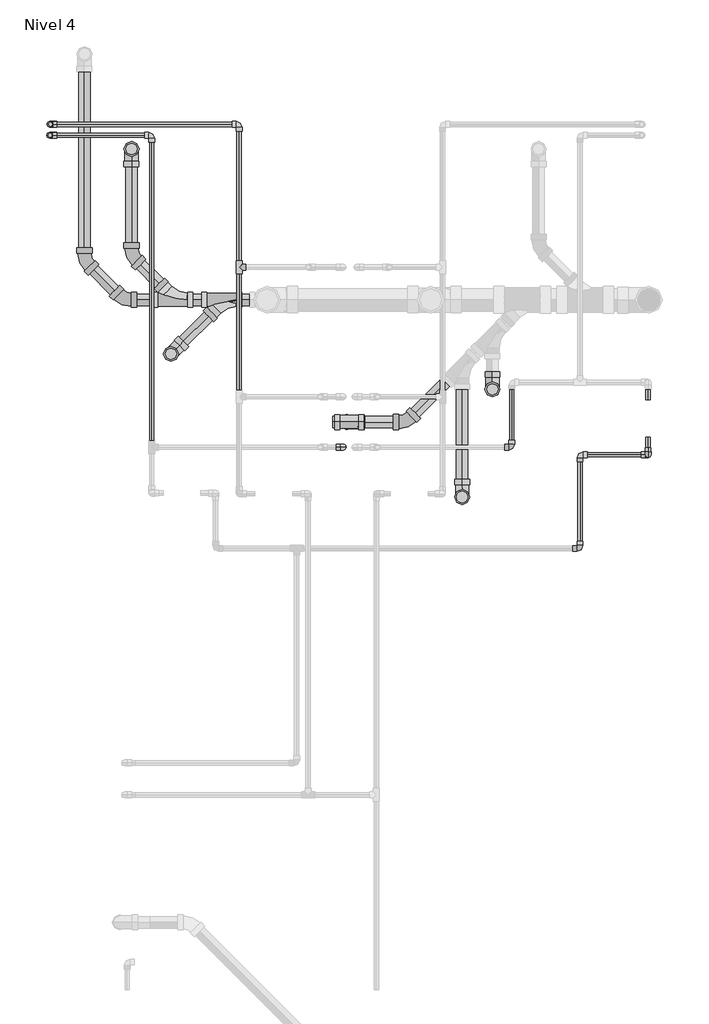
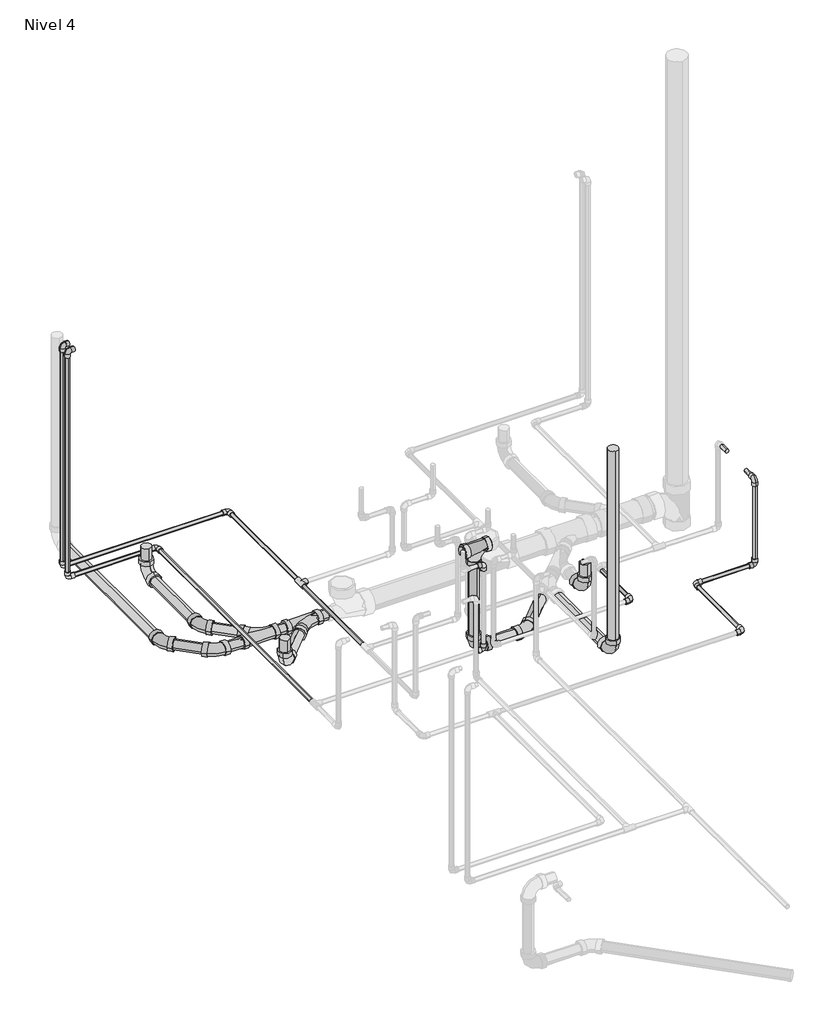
# One storey, part 8 of 9: 31 pipe segments, 26 pipe fittings.
"""IFC4 building model written with IfcOpenShell, lengths in millimetres."""

from ifc_helpers import new_model, si_unit, point, frame, frame_2d, origin, place, context, project, spatial, circle_curve, trimmed, segment, composite_curve, outline, extrude, transform, mapped, element, save
from components import pipe_fitting_ab418b84, pipe_fitting_0163322b, pipe_fitting_6ef1482d, m_codo_pvc_serie_40_9ad74631, m_codo_pvc_serie_40_ba05d404, m_codo_pvc_serie_40_dwv1_5c0ec739, m_codo_pvc_serie_40_dwv1_6f1a2495

model = new_model("IFC4")

# Units and contexts
model_context = context("Model", 3, world=origin())
ifc_project = project(units=[si_unit("LENGTHUNIT", "METRE", prefix="MILLI")], contexts=[model_context])

# Site, building, storey
site = spatial("IfcSite", under=ifc_project)
building = spatial("IfcBuilding", under=site)
storey = spatial("IfcBuildingStorey", under=building, Name="Nivel 4", Elevation=8100.0)

# Pipe fittings
placement = place(None, origin())
pipe_fitting_shape = pipe_fitting_ab418b84(model_context)
element("IfcPipeFitting", 1, ObjectType="M_Te - PVC - Serie 40 : Estándar", at=placement, inside=storey, context=model_context, shape_type="MappedRepresentation", body=[
    mapped(pipe_fitting_shape, transform((3940.052369, 16556.8784649, 8050.0), x_axis=(0.0, 1.0, 0.0), y_axis=(-1.0, 0.0, 0.0), z_axis=(0.0, 0.0, 1.0))),
])
pipe_fitting_2_shape = pipe_fitting_0163322b(model_context)
element("IfcPipeFitting", 2, ObjectType="M_Sanitario con te de reducción - PVC - Serie 40 - DWV : Estándar", at=placement, inside=storey, context=model_context, shape_type="MappedRepresentation", body=[
    mapped(pipe_fitting_2_shape, transform((3642.8791077, 16403.3960274, 7950.0), x_axis=(-1.0, 0.0, 0.0), y_axis=(0.0, -1.0, 0.0), z_axis=(0.0, 0.0, 1.0))),
])
element("IfcPipeFitting", 3, ObjectType="M_Sanitario con te de reducción - PVC - Serie 40 - DWV : Estándar", at=placement, inside=storey, context=model_context, shape_type="MappedRepresentation", body=[
    mapped(pipe_fitting_2_shape, transform((3873.1661658, 16403.3960274, 7950.0), x_axis=(-1.0, 0.0, 0.0), y_axis=(0.0, 1.0, 0.0), z_axis=(0.0, 0.0, -1.0))),
])
pipe_fitting_3_shape = pipe_fitting_6ef1482d(model_context)
element("IfcPipeFitting", 4, ObjectType="M_Sanitario con te de reducción - PVC - Serie 40 - DWV : Estándar", at=placement, inside=storey, context=model_context, shape_type="MappedRepresentation", body=[
    mapped(pipe_fitting_3_shape, transform((4444.9531324, 15830.0, 8510.6716548), x_axis=(-1.0, 0.0, 0.0), y_axis=(0.0, 0.0, 1.0), z_axis=(0.0, 1.0, 0.0))),
])
m_codo_pvc_serie_40_shape = m_codo_pvc_serie_40_9ad74631(model_context)
element("IfcPipeFitting", 5, ObjectType="M_Codo - PVC - Serie 40 : Estándar", at=placement, inside=storey, context=model_context, shape_type="MappedRepresentation", body=[
    mapped(m_codo_pvc_serie_40_shape, transform((3940.052369, 17227.3386211, 8050.0), x_axis=(0.0, 1.0, 0.0), y_axis=(-1.0, 0.0, 0.0), z_axis=(0.0, 0.0, 1.0))),
])
element("IfcPipeFitting", 6, ObjectType="M_Codo - PVC - Serie 40 : Estándar", at=placement, inside=storey, context=model_context, shape_type="MappedRepresentation", body=[
    mapped(m_codo_pvc_serie_40_shape, transform((3051.302369, 17227.3386211, 8050.0), x_axis=(-1.0, 0.0, 0.0), y_axis=(0.0, 0.0, 1.0), z_axis=(0.0, 1.0, 0.0))),
])
element("IfcPipeFitting", 7, ObjectType="M_Codo - PVC - Serie 40 : Estándar", at=placement, inside=storey, context=model_context, shape_type="MappedRepresentation", body=[
    mapped(m_codo_pvc_serie_40_shape, transform((3051.302369, 17227.3386211, 9300.0), x_axis=(0.0, 0.0, 1.0), y_axis=(1.0, 0.0, 0.0), z_axis=(0.0, 1.0, 0.0))),
])
element("IfcPipeFitting", 8, ObjectType="M_Codo - PVC - Serie 40 : Estándar", at=placement, inside=storey, context=model_context, shape_type="MappedRepresentation", body=[
    mapped(m_codo_pvc_serie_40_shape, transform((3529.5674476, 17176.3878958, 8020.0), x_axis=(0.0, 1.0, 0.0), y_axis=(-1.0, 0.0, 0.0), z_axis=(0.0, 0.0, 1.0))),
])
element("IfcPipeFitting", 9, ObjectType="M_Codo - PVC - Serie 40 : Estándar", at=placement, inside=storey, context=model_context, shape_type="MappedRepresentation", body=[
    mapped(m_codo_pvc_serie_40_shape, transform((3049.5674476, 17176.3878958, 8020.0), x_axis=(-1.0, 0.0, 0.0), y_axis=(0.0, 0.0, 1.0), z_axis=(0.0, 1.0, 0.0))),
])
element("IfcPipeFitting", 10, ObjectType="M_Codo - PVC - Serie 40 : Estándar", at=placement, inside=storey, context=model_context, shape_type="MappedRepresentation", body=[
    mapped(m_codo_pvc_serie_40_shape, transform((3049.5674476, 17176.3878958, 9300.0), x_axis=(0.0, 0.0, 1.0), y_axis=(1.0, 0.0, 0.0), z_axis=(0.0, 1.0, 0.0))),
])
element("IfcPipeFitting", 11, ObjectType="M_Codo - PVC - Serie 40 : Estándar", at=placement, inside=storey, context=model_context, shape_type="MappedRepresentation", body=[
    mapped(m_codo_pvc_serie_40_shape, transform((5540.0276039, 15236.3878958, 8020.0), x_axis=(1.0, 0.0, 0.0), y_axis=(0.0, 1.0, 0.0), z_axis=(0.0, 0.0, 1.0))),
])
element("IfcPipeFitting", 12, ObjectType="M_Codo - PVC - Serie 40 : Estándar", at=placement, inside=storey, context=model_context, shape_type="MappedRepresentation", body=[
    mapped(m_codo_pvc_serie_40_shape, transform((5540.0276039, 15676.3878958, 8020.0), x_axis=(-1.0, 0.0, 0.0), y_axis=(0.0, -1.0, 0.0), z_axis=(0.0, 0.0, 1.0))),
])
element("IfcPipeFitting", 13, ObjectType="M_Codo - PVC - Serie 40 : Estándar", at=placement, inside=storey, context=model_context, shape_type="MappedRepresentation", body=[
    mapped(m_codo_pvc_serie_40_shape, transform((5860.0276039, 15676.3878958, 8020.0), x_axis=(1.0, 0.0, 0.0), y_axis=(0.0, 0.0, 1.0), z_axis=(0.0, -1.0, 0.0))),
])
element("IfcPipeFitting", 14, ObjectType="M_Codo - PVC - Serie 40 : Estándar", at=placement, inside=storey, context=model_context, shape_type="MappedRepresentation", body=[
    mapped(m_codo_pvc_serie_40_shape, transform((5860.0276039, 15676.3878958, 8500.0), x_axis=(0.0, 0.0, 1.0), y_axis=(0.0, 1.0, 0.0), z_axis=(-1.0, 0.0, 0.0))),
])
element("IfcPipeFitting", 15, ObjectType="M_Codo - PVC - Serie 40 : Estándar", at=placement, inside=storey, context=model_context, shape_type="MappedRepresentation", body=[
    mapped(m_codo_pvc_serie_40_shape, transform((5219.5674476, 15711.6215833, 8020.0), x_axis=(1.0, 0.0, 0.0), y_axis=(0.0, 1.0, 0.0), z_axis=(0.0, 0.0, 1.0))),
])
element("IfcPipeFitting", 16, ObjectType="M_Codo - PVC - Serie 40 : Estándar", at=placement, inside=storey, context=model_context, shape_type="MappedRepresentation", body=[
    mapped(m_codo_pvc_serie_40_shape, transform((4428.802369, 15711.6215833, 8020.0), x_axis=(0.0, 0.0, -1.0), y_axis=(-1.0, 0.0, 0.0), z_axis=(0.0, 1.0, 0.0))),
])
m_codo_pvc_serie_40_2_shape = m_codo_pvc_serie_40_ba05d404(model_context)
element("IfcPipeFitting", 17, ObjectType="M_Codo - PVC - Serie 40 : Estándar", at=placement, inside=storey, context=model_context, shape_type="MappedRepresentation", body=[
    mapped(m_codo_pvc_serie_40_2_shape, transform((4428.802369, 15711.6215833, 8500.0), x_axis=(1.0, 0.0, 0.0), y_axis=(0.0, 0.0, 1.0), z_axis=(0.0, -1.0, 0.0))),
])
m_codo_pvc_serie_40_dwv1_shape = m_codo_pvc_serie_40_dwv1_5c0ec739(model_context)
element("IfcPipeFitting", 18, ObjectType="M_Codo - PVC - Serie 40 - DWV1 : Estándar 2", at=placement, inside=storey, context=model_context, shape_type="MappedRepresentation", body=[
    mapped(m_codo_pvc_serie_40_dwv1_shape, transform((3434.5151234, 17111.7600116, 7950.0), x_axis=(0.0, 1.0, 0.0), y_axis=(0.0, 0.0, 1.0), z_axis=(1.0, 0.0, 0.0))),
])
element("IfcPipeFitting", 19, ObjectType="M_Codo - PVC - Serie 40 - DWV1 : Estándar 2", at=placement, inside=storey, context=model_context, shape_type="MappedRepresentation", body=[
    mapped(m_codo_pvc_serie_40_dwv1_shape, transform((4444.9531324, 15830.0, 7950.0), x_axis=(0.0, 0.0, -1.0), y_axis=(1.0, 0.0, 0.0), z_axis=(0.0, -1.0, 0.0))),
])
element("IfcPipeFitting", 20, ObjectType="M_Codo - PVC - Serie 40 - DWV1 : Estándar 2", at=placement, inside=storey, context=model_context, shape_type="MappedRepresentation", body=[
    mapped(m_codo_pvc_serie_40_dwv1_shape, transform((5128.991198, 15983.6158639, 7950.0), x_axis=(0.0, -1.0, 0.0), y_axis=(0.0, 0.0, 1.0), z_axis=(-1.0, 0.0, 0.0))),
])
element("IfcPipeFitting", 21, ObjectType="M_Codo - PVC - Serie 40 - DWV1 : Estándar 2", at=placement, inside=storey, context=model_context, shape_type="MappedRepresentation", body=[
    mapped(m_codo_pvc_serie_40_dwv1_shape, transform((3619.7701384, 16150.0, 7950.0), x_axis=(-0.7071067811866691, -0.7071067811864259, 0.0), y_axis=(0.0, 0.0, 1.0), z_axis=(-0.7071067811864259, 0.7071067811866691, 0.0))),
])
element("IfcPipeFitting", 22, ObjectType="M_Codo - PVC - Serie 40 - DWV1 : Estándar 2", at=placement, inside=storey, context=model_context, shape_type="MappedRepresentation", body=[
    mapped(m_codo_pvc_serie_40_dwv1_shape, transform((4986.7349767, 15478.0354988, 7950.0), x_axis=(0.0, 0.0, -1.0), y_axis=(0.0, 1.0, 0.0), z_axis=(1.0, 0.0, 0.0))),
])
m_codo_pvc_serie_40_dwv1_2_shape = m_codo_pvc_serie_40_dwv1_6f1a2495(model_context)
element("IfcPipeFitting", 23, ObjectType="M_Codo - PVC - Serie 40 - DWV1 : Estándar 2", at=placement, inside=storey, context=model_context, shape_type="MappedRepresentation", body=[
    mapped(m_codo_pvc_serie_40_dwv1_2_shape, transform((3434.5151234, 16611.7600116, 7950.0), x_axis=(0.0, -1.0, 0.0), y_axis=(1.0, 0.0, 0.0), z_axis=(0.0, 0.0, 1.0))),
])
element("IfcPipeFitting", 24, ObjectType="M_Codo - PVC - Serie 40 - DWV1 : Estándar 2", at=placement, inside=storey, context=model_context, shape_type="MappedRepresentation", body=[
    mapped(m_codo_pvc_serie_40_dwv1_2_shape, transform((4723.699478, 15830.0, 7950.0), x_axis=(1.0, 0.0, 0.0), y_axis=(0.0, 1.0, 0.0), z_axis=(0.0, 0.0, 1.0))),
])
element("IfcPipeFitting", 25, ObjectType="M_Codo - PVC - Serie 40 - DWV1 : Estándar 2", at=placement, inside=storey, context=model_context, shape_type="MappedRepresentation", body=[
    mapped(m_codo_pvc_serie_40_dwv1_2_shape, transform((3213.7125219, 16587.2430701, 7950.0), x_axis=(0.0, -1.0, 0.0), y_axis=(1.0, 0.0, 0.0), z_axis=(0.0, 0.0, 1.0))),
])
element("IfcPipeFitting", 26, ObjectType="M_Codo - PVC - Serie 40 - DWV1 : Estándar 2", at=placement, inside=storey, context=model_context, shape_type="MappedRepresentation", body=[
    mapped(m_codo_pvc_serie_40_dwv1_2_shape, transform((3397.5595646, 16403.3960274, 7950.0), x_axis=(0.7071067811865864, -0.7071067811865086, 0.0), y_axis=(0.7071067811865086, 0.7071067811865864, 0.0), z_axis=(0.0, 0.0, 1.0))),
])

# Pipe segments
element("IfcPipeSegment", 27, ObjectType="Tuberia PVC Agua Fria", at=placement, inside=storey, context=model_context, shape_type="SweptSolid", body=[
    extrude(outline(composite_curve([segment(trimmed(circle_curve(frame_2d((8050.0, 3940.052369)), 10.31875), [point((8050.0, 3929.733619))], [point((8039.68125, 3940.052369))], False, "CARTESIAN"), True, "CONTINUOUS"), segment(trimmed(circle_curve(frame_2d((8050.0, 3940.052369)), 10.31875), [point((8039.68125, 3940.052369))], [point((8050.0, 3950.371119))], False, "CARTESIAN"), True, "CONTINUOUS"), segment(trimmed(circle_curve(frame_2d((8050.0, 3940.052369)), 10.31875), [point((8050.0, 3950.371119))], [point((8060.31875, 3940.052369))], False, "CARTESIAN"), True, "CONTINUOUS"), segment(trimmed(circle_curve(frame_2d((8050.0, 3940.052369)), 10.31875), [point((8060.31875, 3940.052369))], [point((8050.0, 3929.733619))], False, "CARTESIAN"), True, "CONTINUOUS")], self_intersect=False)), frame((0.0, 15978.8385729, 0.0), z_axis=(0.0, 1.0, 0.0), x_axis=(0.0, 0.0, 1.0)), (0.0, 0.0, 1.0), 547.5797357),
])
element("IfcPipeSegment", 28, ObjectType="Tuberia PVC Agua Fria", at=placement, inside=storey, context=model_context, shape_type="SweptSolid", body=[
    extrude(outline(composite_curve([segment(trimmed(circle_curve(frame_2d((8050.0, 3940.052369)), 10.31875), [point((8050.0, 3950.371119))], [point((8060.31875, 3940.052369))], False, "CARTESIAN"), True, "CONTINUOUS"), segment(trimmed(circle_curve(frame_2d((8050.0, 3940.052369)), 10.31875), [point((8060.31875, 3940.052369))], [point((8050.0, 3929.733619))], False, "CARTESIAN"), True, "CONTINUOUS"), segment(trimmed(circle_curve(frame_2d((8050.0, 3940.052369)), 10.31875), [point((8050.0, 3929.733619))], [point((8039.68125, 3940.052369))], False, "CARTESIAN"), True, "CONTINUOUS"), segment(trimmed(circle_curve(frame_2d((8050.0, 3940.052369)), 10.31875), [point((8039.68125, 3940.052369))], [point((8050.0, 3950.371119))], False, "CARTESIAN"), True, "CONTINUOUS")], self_intersect=False)), frame((0.0, 16587.3386211, 0.0), z_axis=(0.0, 1.0, 0.0), x_axis=(0.0, 0.0, 1.0)), (0.0, 0.0, 1.0), 606.599),
])
element("IfcPipeSegment", 29, ObjectType="Tuberia PVC Agua Fria", at=placement, inside=storey, context=model_context, shape_type="SweptSolid", body=[
    extrude(outline(composite_curve([segment(trimmed(circle_curve(frame_2d((17227.3386211, 8050.0)), 10.31875), [point((17237.6573711, 8050.0))], [point((17227.3386211, 8039.68125))], False, "CARTESIAN"), True, "CONTINUOUS"), segment(trimmed(circle_curve(frame_2d((17227.3386211, 8050.0)), 10.31875), [point((17227.3386211, 8039.68125))], [point((17217.0198711, 8050.0))], False, "CARTESIAN"), True, "CONTINUOUS"), segment(trimmed(circle_curve(frame_2d((17227.3386211, 8050.0)), 10.31875), [point((17217.0198711, 8050.0))], [point((17227.3386211, 8060.31875))], False, "CARTESIAN"), True, "CONTINUOUS"), segment(trimmed(circle_curve(frame_2d((17227.3386211, 8050.0)), 10.31875), [point((17227.3386211, 8060.31875))], [point((17237.6573711, 8050.0))], False, "CARTESIAN"), True, "CONTINUOUS")], self_intersect=False)), frame((3084.703369, 0.0, 0.0), z_axis=(1.0, 0.0, 0.0), x_axis=(0.0, 1.0, 0.0)), (0.0, 0.0, 1.0), 821.948),
])
element("IfcPipeSegment", 30, ObjectType="Tuberia PVC Agua Fria", at=placement, inside=storey, context=model_context, shape_type="SweptSolid", body=[
    extrude(outline(composite_curve([segment(trimmed(circle_curve(frame_2d((3051.302369, 17227.3386211)), 10.31875), [point((3040.983619, 17227.3386211))], [point((3051.302369, 17237.6573711))], False, "CARTESIAN"), True, "CONTINUOUS"), segment(trimmed(circle_curve(frame_2d((3051.302369, 17227.3386211)), 10.31875), [point((3051.302369, 17237.6573711))], [point((3061.621119, 17227.3386211))], False, "CARTESIAN"), True, "CONTINUOUS"), segment(trimmed(circle_curve(frame_2d((3051.302369, 17227.3386211)), 10.31875), [point((3061.621119, 17227.3386211))], [point((3051.302369, 17217.0198711))], False, "CARTESIAN"), True, "CONTINUOUS"), segment(trimmed(circle_curve(frame_2d((3051.302369, 17227.3386211)), 10.31875), [point((3051.302369, 17217.0198711))], [point((3040.983619, 17227.3386211))], False, "CARTESIAN"), True, "CONTINUOUS")], self_intersect=False)), frame((0.0, 0.0, 8083.401), z_axis=(0.0, 0.0, 1.0), x_axis=(1.0, 0.0, 0.0)), (0.0, 0.0, 1.0), 1183.198),
])
element("IfcPipeSegment", 31, ObjectType="Tuberia PVC VENTILACION", at=placement, inside=storey, context=model_context, shape_type="SweptSolid", body=[
    extrude(outline(composite_curve([segment(trimmed(circle_curve(frame_2d((16403.3960274, 7950.0)), 26.9875), [point((16376.4085274, 7950.0))], [point((16403.3960274, 7976.9875))], False, "CARTESIAN"), True, "CONTINUOUS"), segment(trimmed(circle_curve(frame_2d((16403.3960274, 7950.0)), 26.9875), [point((16403.3960274, 7976.9875))], [point((16430.3835274, 7950.0))], False, "CARTESIAN"), True, "CONTINUOUS"), segment(trimmed(circle_curve(frame_2d((16403.3960274, 7950.0)), 26.9875), [point((16430.3835274, 7950.0))], [point((16403.3960274, 7923.0125))], False, "CARTESIAN"), True, "CONTINUOUS"), segment(trimmed(circle_curve(frame_2d((16403.3960274, 7950.0)), 26.9875), [point((16403.3960274, 7923.0125))], [point((16376.4085274, 7950.0))], False, "CARTESIAN"), True, "CONTINUOUS")], self_intersect=False)), frame((3457.9877521, 0.0, 0.0), z_axis=(1.0, 0.0, 0.0), x_axis=(0.0, 1.0, 0.0)), (0.0, 0.0, 1.0), 76.0537489),
])
element("IfcPipeSegment", 32, ObjectType="Tuberia PVC VENTILACION", at=placement, inside=storey, context=model_context, shape_type="SweptSolid", body=[
    extrude(outline(composite_curve([segment(trimmed(circle_curve(frame_2d((7950.0, 3213.7125219)), 26.9875), [point((7950.0, 3240.7000219))], [point((7976.9875, 3213.7125219))], False, "CARTESIAN"), True, "CONTINUOUS"), segment(trimmed(circle_curve(frame_2d((7950.0, 3213.7125219)), 26.9875), [point((7976.9875, 3213.7125219))], [point((7950.0, 3186.7250219))], False, "CARTESIAN"), True, "CONTINUOUS"), segment(trimmed(circle_curve(frame_2d((7950.0, 3213.7125219)), 26.9875), [point((7950.0, 3186.7250219))], [point((7923.0125, 3213.7125219))], False, "CARTESIAN"), True, "CONTINUOUS"), segment(trimmed(circle_curve(frame_2d((7950.0, 3213.7125219)), 26.9875), [point((7923.0125, 3213.7125219))], [point((7950.0, 3240.7000219))], False, "CARTESIAN"), True, "CONTINUOUS")], self_intersect=False)), frame((0.0, 16647.6712576, 0.0), z_axis=(0.0, 1.0, 0.0), x_axis=(0.0, 0.0, 1.0)), (0.0, 0.0, 1.0), 827.02975),
])
element("IfcPipeSegment", 33, ObjectType="Tuberia PVC VENTILACION", at=placement, inside=storey, context=model_context, shape_type="SweptSolid", body=[
    extrude(outline(composite_curve([segment(trimmed(circle_curve(frame_2d((0.0, -26.9875)), 26.9875), [point((-26.9875, -26.9875))], [point((0.0, 0.0))], False, "CARTESIAN"), True, "CONTINUOUS"), segment(trimmed(circle_curve(frame_2d((0.0, -26.9875)), 26.9875), [point((0.0, 0.0))], [point((26.9875001, -26.9875))], False, "CARTESIAN"), True, "CONTINUOUS"), segment(trimmed(circle_curve(frame_2d((0.0, -26.9875)), 26.9875), [point((26.9875001, -26.9875))], [point((0.0, -53.975))], False, "CARTESIAN"), True, "CONTINUOUS"), segment(trimmed(circle_curve(frame_2d((0.0, -26.9875)), 26.9875), [point((0.0, -53.975))], [point((-26.9875, -26.9875))], False, "CARTESIAN"), True, "CONTINUOUS")], self_intersect=False)), frame((3354.8303834, 16446.1252085, 7923.0125), z_axis=(-0.7071067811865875, 0.7071067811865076, 0.0), x_axis=(0.7071067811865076, 0.7071067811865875, 0.0)), (0.0, 0.0, 1.0), 139.1426062),
])
element("IfcPipeSegment", 34, ObjectType="Tuberia PVC VENTILACION", at=placement, inside=storey, context=model_context, shape_type="SweptSolid", body=[
    extrude(outline(composite_curve([segment(trimmed(circle_curve(frame_2d((7950.0, 4986.7349767)), 26.9875), [point((7950.0, 5013.7224767))], [point((7976.9875, 4986.7349767))], False, "CARTESIAN"), True, "CONTINUOUS"), segment(trimmed(circle_curve(frame_2d((7950.0, 4986.7349767)), 26.9875), [point((7976.9875, 4986.7349767))], [point((7950.0, 4959.7474767))], False, "CARTESIAN"), True, "CONTINUOUS"), segment(trimmed(circle_curve(frame_2d((7950.0, 4986.7349767)), 26.9875), [point((7950.0, 4959.7474767))], [point((7923.0125, 4986.7349767))], False, "CARTESIAN"), True, "CONTINUOUS"), segment(trimmed(circle_curve(frame_2d((7950.0, 4986.7349767)), 26.9875), [point((7923.0125, 4986.7349767))], [point((7950.0, 5013.7224767))], False, "CARTESIAN"), True, "CONTINUOUS")], self_intersect=False)), frame((0.0, 15560.5775613, 0.0), z_axis=(0.0, 1.0, 0.0), x_axis=(0.0, 0.0, 1.0)), (0.0, 0.0, 1.0), 423.6203308),
])
element("IfcPipeSegment", 35, ObjectType="Tuberia PVC VENTILACION", at=placement, inside=storey, context=model_context, shape_type="SweptSolid", body=[
    extrude(outline(composite_curve([segment(trimmed(circle_curve(frame_2d((4986.7349767, 15478.0354988)), 26.9875), [point((4959.7474767, 15478.0354988))], [point((4986.7349767, 15505.0229988))], False, "CARTESIAN"), True, "CONTINUOUS"), segment(trimmed(circle_curve(frame_2d((4986.7349767, 15478.0354988)), 26.9875), [point((4986.7349767, 15505.0229988))], [point((5013.7224767, 15478.0354988))], False, "CARTESIAN"), True, "CONTINUOUS"), segment(trimmed(circle_curve(frame_2d((4986.7349767, 15478.0354988)), 26.9875), [point((5013.7224767, 15478.0354988))], [point((4986.7349767, 15451.0479988))], False, "CARTESIAN"), True, "CONTINUOUS"), segment(trimmed(circle_curve(frame_2d((4986.7349767, 15478.0354988)), 26.9875), [point((4986.7349767, 15451.0479988))], [point((4959.7474767, 15478.0354988))], False, "CARTESIAN"), True, "CONTINUOUS")], self_intersect=False)), frame((0.0, 0.0, 8032.5420625), z_axis=(0.0, 0.0, 1.0), x_axis=(1.0, 0.0, 0.0)), (0.0, 0.0, 1.0), 1067.4579375),
])
element("IfcPipeSegment", 36, ObjectType="Tuberia PVC Agua Caliente", at=placement, inside=storey, context=model_context, shape_type="SweptSolid", body=[
    extrude(outline(composite_curve([segment(trimmed(circle_curve(frame_2d((17176.3878958, 8020.0)), 10.31875), [point((17186.7066458, 8020.0))], [point((17176.3878958, 8009.68125))], False, "CARTESIAN"), True, "CONTINUOUS"), segment(trimmed(circle_curve(frame_2d((17176.3878958, 8020.0)), 10.31875), [point((17176.3878958, 8009.68125))], [point((17166.0691458, 8020.0))], False, "CARTESIAN"), True, "CONTINUOUS"), segment(trimmed(circle_curve(frame_2d((17176.3878958, 8020.0)), 10.31875), [point((17166.0691458, 8020.0))], [point((17176.3878958, 8030.31875))], False, "CARTESIAN"), True, "CONTINUOUS"), segment(trimmed(circle_curve(frame_2d((17176.3878958, 8020.0)), 10.31875), [point((17176.3878958, 8030.31875))], [point((17186.7066458, 8020.0))], False, "CARTESIAN"), True, "CONTINUOUS")], self_intersect=False)), frame((3082.9684476, 0.0, 0.0), z_axis=(1.0, 0.0, 0.0), x_axis=(0.0, 1.0, 0.0)), (0.0, 0.0, 1.0), 413.198),
])
element("IfcPipeSegment", 37, ObjectType="Tuberia PVC Agua Caliente", at=placement, inside=storey, context=model_context, shape_type="SweptSolid", body=[
    extrude(outline(composite_curve([segment(trimmed(circle_curve(frame_2d((3049.5674476, 17176.3878958)), 10.31875), [point((3039.2486976, 17176.3878958))], [point((3049.5674476, 17186.7066458))], False, "CARTESIAN"), True, "CONTINUOUS"), segment(trimmed(circle_curve(frame_2d((3049.5674476, 17176.3878958)), 10.31875), [point((3049.5674476, 17186.7066458))], [point((3059.8861976, 17176.3878958))], False, "CARTESIAN"), True, "CONTINUOUS"), segment(trimmed(circle_curve(frame_2d((3049.5674476, 17176.3878958)), 10.31875), [point((3059.8861976, 17176.3878958))], [point((3049.5674476, 17166.0691458))], False, "CARTESIAN"), True, "CONTINUOUS"), segment(trimmed(circle_curve(frame_2d((3049.5674476, 17176.3878958)), 10.31875), [point((3049.5674476, 17166.0691458))], [point((3039.2486976, 17176.3878958))], False, "CARTESIAN"), True, "CONTINUOUS")], self_intersect=False)), frame((0.0, 0.0, 8053.401), z_axis=(0.0, 0.0, 1.0), x_axis=(1.0, 0.0, 0.0)), (0.0, 0.0, 1.0), 1213.198),
])
element("IfcPipeSegment", 38, ObjectType="Tuberia PVC Agua Caliente", at=placement, inside=storey, context=model_context, shape_type="SweptSolid", body=[
    extrude(outline(composite_curve([segment(trimmed(circle_curve(frame_2d((8020.0, 5540.0276039)), 10.31875), [point((8020.0, 5550.3463539))], [point((8030.31875, 5540.0276039))], False, "CARTESIAN"), True, "CONTINUOUS"), segment(trimmed(circle_curve(frame_2d((8020.0, 5540.0276039)), 10.31875), [point((8030.31875, 5540.0276039))], [point((8020.0, 5529.7088539))], False, "CARTESIAN"), True, "CONTINUOUS"), segment(trimmed(circle_curve(frame_2d((8020.0, 5540.0276039)), 10.31875), [point((8020.0, 5529.7088539))], [point((8009.68125, 5540.0276039))], False, "CARTESIAN"), True, "CONTINUOUS"), segment(trimmed(circle_curve(frame_2d((8020.0, 5540.0276039)), 10.31875), [point((8009.68125, 5540.0276039))], [point((8020.0, 5550.3463539))], False, "CARTESIAN"), True, "CONTINUOUS")], self_intersect=False)), frame((0.0, 15269.7888958, 0.0), z_axis=(0.0, 1.0, 0.0), x_axis=(0.0, 0.0, 1.0)), (0.0, 0.0, 1.0), 373.198),
])
element("IfcPipeSegment", 39, ObjectType="Tuberia PVC Agua Caliente", at=placement, inside=storey, context=model_context, shape_type="SweptSolid", body=[
    extrude(outline(composite_curve([segment(trimmed(circle_curve(frame_2d((15676.3878958, 8020.0)), 10.31875), [point((15666.0691458, 8020.0))], [point((15676.3878958, 8030.31875))], False, "CARTESIAN"), True, "CONTINUOUS"), segment(trimmed(circle_curve(frame_2d((15676.3878958, 8020.0)), 10.31875), [point((15676.3878958, 8030.31875))], [point((15686.7066458, 8020.0))], False, "CARTESIAN"), True, "CONTINUOUS"), segment(trimmed(circle_curve(frame_2d((15676.3878958, 8020.0)), 10.31875), [point((15686.7066458, 8020.0))], [point((15676.3878958, 8009.68125))], False, "CARTESIAN"), True, "CONTINUOUS"), segment(trimmed(circle_curve(frame_2d((15676.3878958, 8020.0)), 10.31875), [point((15676.3878958, 8009.68125))], [point((15666.0691458, 8020.0))], False, "CARTESIAN"), True, "CONTINUOUS")], self_intersect=False)), frame((5573.4286039, 0.0, 0.0), z_axis=(1.0, 0.0, 0.0), x_axis=(0.0, 1.0, 0.0)), (0.0, 0.0, 1.0), 253.198),
])
element("IfcPipeSegment", 40, ObjectType="Tuberia PVC Agua Caliente", at=placement, inside=storey, context=model_context, shape_type="SweptSolid", body=[
    extrude(outline(composite_curve([segment(trimmed(circle_curve(frame_2d((8500.0, 5860.0276039)), 10.31875), [point((8500.0, 5870.3463539))], [point((8510.31875, 5860.0276039))], False, "CARTESIAN"), True, "CONTINUOUS"), segment(trimmed(circle_curve(frame_2d((8500.0, 5860.0276039)), 10.31875), [point((8510.31875, 5860.0276039))], [point((8500.0, 5849.7088539))], False, "CARTESIAN"), True, "CONTINUOUS"), segment(trimmed(circle_curve(frame_2d((8500.0, 5860.0276039)), 10.31875), [point((8500.0, 5849.7088539))], [point((8489.68125, 5860.0276039))], False, "CARTESIAN"), True, "CONTINUOUS"), segment(trimmed(circle_curve(frame_2d((8500.0, 5860.0276039)), 10.31875), [point((8489.68125, 5860.0276039))], [point((8500.0, 5870.3463539))], False, "CARTESIAN"), True, "CONTINUOUS")], self_intersect=False)), frame((0.0, 15935.3878958, 0.0), z_axis=(0.0, 1.0, 0.0), x_axis=(0.0, 0.0, 1.0)), (0.0, 0.0, 1.0), 47.599),
])
element("IfcPipeSegment", 41, ObjectType="Tuberia PVC Agua Caliente", at=placement, inside=storey, context=model_context, shape_type="SweptSolid", body=[
    extrude(outline(composite_curve([segment(trimmed(circle_curve(frame_2d((5860.0276039, 15676.3878958)), 10.31875), [point((5849.7088539, 15676.3878958))], [point((5860.0276039, 15686.7066458))], False, "CARTESIAN"), True, "CONTINUOUS"), segment(trimmed(circle_curve(frame_2d((5860.0276039, 15676.3878958)), 10.31875), [point((5860.0276039, 15686.7066458))], [point((5870.3463539, 15676.3878958))], False, "CARTESIAN"), True, "CONTINUOUS"), segment(trimmed(circle_curve(frame_2d((5860.0276039, 15676.3878958)), 10.31875), [point((5870.3463539, 15676.3878958))], [point((5860.0276039, 15666.0691458))], False, "CARTESIAN"), True, "CONTINUOUS"), segment(trimmed(circle_curve(frame_2d((5860.0276039, 15676.3878958)), 10.31875), [point((5860.0276039, 15666.0691458))], [point((5849.7088539, 15676.3878958))], False, "CARTESIAN"), True, "CONTINUOUS")], self_intersect=False)), frame((0.0, 0.0, 8053.401), z_axis=(0.0, 0.0, 1.0), x_axis=(1.0, 0.0, 0.0)), (0.0, 0.0, 1.0), 413.198),
])
element("IfcPipeSegment", 42, ObjectType="Tuberia PVC Agua Caliente", at=placement, inside=storey, context=model_context, shape_type="SweptSolid", body=[
    extrude(outline(composite_curve([segment(trimmed(circle_curve(frame_2d((8020.0, 5219.5674476)), 10.31875), [point((8020.0, 5209.2486976))], [point((8009.68125, 5219.5674476))], False, "CARTESIAN"), True, "CONTINUOUS"), segment(trimmed(circle_curve(frame_2d((8020.0, 5219.5674476)), 10.31875), [point((8009.68125, 5219.5674476))], [point((8020.0, 5229.8861976))], False, "CARTESIAN"), True, "CONTINUOUS"), segment(trimmed(circle_curve(frame_2d((8020.0, 5219.5674476)), 10.31875), [point((8020.0, 5229.8861976))], [point((8030.31875, 5219.5674476))], False, "CARTESIAN"), True, "CONTINUOUS"), segment(trimmed(circle_curve(frame_2d((8020.0, 5219.5674476)), 10.31875), [point((8030.31875, 5219.5674476))], [point((8020.0, 5209.2486976))], False, "CARTESIAN"), True, "CONTINUOUS")], self_intersect=False)), frame((0.0, 15745.0225833, 0.0), z_axis=(0.0, 1.0, 0.0), x_axis=(0.0, 0.0, 1.0)), (0.0, 0.0, 1.0), 237.9643125),
])
element("IfcPipeSegment", 43, ObjectType="Tuberia PVC Agua Caliente", at=placement, inside=storey, context=model_context, shape_type="SweptSolid", body=[
    extrude(outline(composite_curve([segment(trimmed(circle_curve(frame_2d((8020.0, 3529.5674476)), 10.31875), [point((8020.0, 3539.8861976))], [point((8030.31875, 3529.5674476))], False, "CARTESIAN"), True, "CONTINUOUS"), segment(trimmed(circle_curve(frame_2d((8020.0, 3529.5674476)), 10.31875), [point((8030.31875, 3529.5674476))], [point((8020.0, 3519.2486976))], False, "CARTESIAN"), True, "CONTINUOUS"), segment(trimmed(circle_curve(frame_2d((8020.0, 3529.5674476)), 10.31875), [point((8020.0, 3519.2486976))], [point((8009.68125, 3529.5674476))], False, "CARTESIAN"), True, "CONTINUOUS"), segment(trimmed(circle_curve(frame_2d((8020.0, 3529.5674476)), 10.31875), [point((8009.68125, 3529.5674476))], [point((8020.0, 3539.8861976))], False, "CARTESIAN"), True, "CONTINUOUS")], self_intersect=False)), frame((0.0, 15742.0817396, 0.0), z_axis=(0.0, 1.0, 0.0), x_axis=(0.0, 0.0, 1.0)), (0.0, 0.0, 1.0), 1400.9051562),
])
element("IfcPipeSegment", 44, ObjectType="Tuberia PVC Agua Caliente", at=placement, inside=storey, context=model_context, shape_type="SweptSolid", body=[
    extrude(outline(composite_curve([segment(trimmed(circle_curve(frame_2d((8500.0, 5860.0276039)), 10.31875), [point((8500.0, 5870.3463539))], [point((8510.31875, 5860.0276039))], False, "CARTESIAN"), True, "CONTINUOUS"), segment(trimmed(circle_curve(frame_2d((8500.0, 5860.0276039)), 10.31875), [point((8510.31875, 5860.0276039))], [point((8500.0, 5849.7088539))], False, "CARTESIAN"), True, "CONTINUOUS"), segment(trimmed(circle_curve(frame_2d((8500.0, 5860.0276039)), 10.31875), [point((8500.0, 5849.7088539))], [point((8489.68125, 5860.0276039))], False, "CARTESIAN"), True, "CONTINUOUS"), segment(trimmed(circle_curve(frame_2d((8500.0, 5860.0276039)), 10.31875), [point((8489.68125, 5860.0276039))], [point((8500.0, 5870.3463539))], False, "CARTESIAN"), True, "CONTINUOUS")], self_intersect=False)), frame((0.0, 15709.7888958, 0.0), z_axis=(0.0, 1.0, 0.0), x_axis=(0.0, 0.0, 1.0)), (0.0, 0.0, 1.0), 47.599),
])
element("IfcPipeSegment", 45, ObjectType="Tuberia PVC Sanitario", at=placement, inside=storey, context=model_context, shape_type="SweptSolid", body=[
    extrude(outline(composite_curve([segment(trimmed(circle_curve(frame_2d((15830.0, 7950.0)), 26.9875), [point((15856.9875, 7950.0))], [point((15830.0, 7923.0125))], False, "CARTESIAN"), True, "CONTINUOUS"), segment(trimmed(circle_curve(frame_2d((15830.0, 7950.0)), 26.9875), [point((15830.0, 7923.0125))], [point((15803.0125, 7950.0))], False, "CARTESIAN"), True, "CONTINUOUS"), segment(trimmed(circle_curve(frame_2d((15830.0, 7950.0)), 26.9875), [point((15803.0125, 7950.0))], [point((15830.0, 7976.9875))], False, "CARTESIAN"), True, "CONTINUOUS"), segment(trimmed(circle_curve(frame_2d((15830.0, 7950.0)), 26.9875), [point((15830.0, 7976.9875))], [point((15856.9875, 7950.0))], False, "CARTESIAN"), True, "CONTINUOUS")], self_intersect=False)), frame((4527.4951949, 0.0, 0.0), z_axis=(1.0, 0.0, 0.0), x_axis=(0.0, 1.0, 0.0)), (0.0, 0.0, 1.0), 135.7760956),
])
element("IfcPipeSegment", 46, ObjectType="Tuberia PVC Sanitario", at=placement, inside=storey, context=model_context, shape_type="SweptSolid", body=[
    extrude(outline(composite_curve([segment(trimmed(circle_curve(frame_2d((15830.0, 8510.6716548)), 26.9875), [point((15856.9875, 8510.6716548))], [point((15830.0, 8483.6841548))], False, "CARTESIAN"), True, "CONTINUOUS"), segment(trimmed(circle_curve(frame_2d((15830.0, 8510.6716548)), 26.9875), [point((15830.0, 8483.6841548))], [point((15803.0125, 8510.6716548))], False, "CARTESIAN"), True, "CONTINUOUS"), segment(trimmed(circle_curve(frame_2d((15830.0, 8510.6716548)), 26.9875), [point((15803.0125, 8510.6716548))], [point((15830.0, 8537.6591548))], False, "CARTESIAN"), True, "CONTINUOUS"), segment(trimmed(circle_curve(frame_2d((15830.0, 8510.6716548)), 26.9875), [point((15830.0, 8537.6591548))], [point((15856.9875, 8510.6716548))], False, "CARTESIAN"), True, "CONTINUOUS")], self_intersect=False)), frame((4524.8875992, 0.0, 0.0), z_axis=(1.0, 0.0, 0.0), x_axis=(0.0, 1.0, 0.0)), (0.0, 0.0, 1.0), 5.0655333),
])
element("IfcPipeSegment", 47, ObjectType="Tuberia PVC Sanitario", at=placement, inside=storey, context=model_context, shape_type="SweptSolid", body=[
    extrude(outline(composite_curve([segment(trimmed(circle_curve(frame_2d((4444.9531324, 15830.0)), 26.9875), [point((4471.9406324, 15830.0))], [point((4444.9531324, 15803.0125))], False, "CARTESIAN"), True, "CONTINUOUS"), segment(trimmed(circle_curve(frame_2d((4444.9531324, 15830.0)), 26.9875), [point((4444.9531324, 15803.0125))], [point((4417.9656324, 15830.0))], False, "CARTESIAN"), True, "CONTINUOUS"), segment(trimmed(circle_curve(frame_2d((4444.9531324, 15830.0)), 26.9875), [point((4417.9656324, 15830.0))], [point((4444.9531324, 15856.9875))], False, "CARTESIAN"), True, "CONTINUOUS"), segment(trimmed(circle_curve(frame_2d((4444.9531324, 15830.0)), 26.9875), [point((4444.9531324, 15856.9875))], [point((4471.9406324, 15830.0))], False, "CARTESIAN"), True, "CONTINUOUS")], self_intersect=False)), frame((0.0, 0.0, 8032.5420625), z_axis=(0.0, 0.0, 1.0), x_axis=(1.0, 0.0, 0.0)), (0.0, 0.0, 1.0), 396.3376235),
])
element("IfcPipeSegment", 48, ObjectType="Tuberia PVC Sanitario", at=placement, inside=storey, context=model_context, shape_type="SweptSolid", body=[
    extrude(outline(composite_curve([segment(trimmed(circle_curve(frame_2d((15830.0, 8510.6716548)), 26.9875), [point((15856.9875, 8510.6716548))], [point((15830.0, 8483.6841548))], False, "CARTESIAN"), True, "CONTINUOUS"), segment(trimmed(circle_curve(frame_2d((15830.0, 8510.6716548)), 26.9875), [point((15830.0, 8483.6841548))], [point((15803.0125, 8510.6716548))], False, "CARTESIAN"), True, "CONTINUOUS"), segment(trimmed(circle_curve(frame_2d((15830.0, 8510.6716548)), 26.9875), [point((15803.0125, 8510.6716548))], [point((15830.0, 8537.6591548))], False, "CARTESIAN"), True, "CONTINUOUS"), segment(trimmed(circle_curve(frame_2d((15830.0, 8510.6716548)), 26.9875), [point((15830.0, 8537.6591548))], [point((15856.9875, 8510.6716548))], False, "CARTESIAN"), True, "CONTINUOUS")], self_intersect=False)), frame((4379.9531324, 0.0, 0.0), z_axis=(1.0, 0.0, 0.0), x_axis=(0.0, 1.0, 0.0)), (0.0, 0.0, 1.0), 7.8070105),
])
element("IfcPipeSegment", 49, ObjectType="Tuberia PVC Sanitario", at=placement, inside=storey, context=model_context, shape_type="SweptSolid", body=[
    extrude(outline(composite_curve([segment(trimmed(circle_curve(frame_2d((7950.0, 3434.5151234)), 26.9875), [point((7950.0, 3461.5026234))], [point((7976.9875, 3434.5151234))], False, "CARTESIAN"), True, "CONTINUOUS"), segment(trimmed(circle_curve(frame_2d((7950.0, 3434.5151234)), 26.9875), [point((7976.9875, 3434.5151234))], [point((7950.0, 3407.5276234))], False, "CARTESIAN"), True, "CONTINUOUS"), segment(trimmed(circle_curve(frame_2d((7950.0, 3434.5151234)), 26.9875), [point((7950.0, 3407.5276234))], [point((7923.0125, 3434.5151234))], False, "CARTESIAN"), True, "CONTINUOUS"), segment(trimmed(circle_curve(frame_2d((7950.0, 3434.5151234)), 26.9875), [point((7923.0125, 3434.5151234))], [point((7950.0, 3461.5026234))], False, "CARTESIAN"), True, "CONTINUOUS")], self_intersect=False)), frame((0.0, 16672.1881991, 0.0), z_axis=(0.0, 1.0, 0.0), x_axis=(0.0, 0.0, 1.0)), (0.0, 0.0, 1.0), 357.02975),
])
element("IfcPipeSegment", 50, ObjectType="Tuberia PVC Sanitario", at=placement, inside=storey, context=model_context, shape_type="SweptSolid", body=[
    extrude(outline(composite_curve([segment(trimmed(circle_curve(frame_2d((0.0, 26.9875)), 26.9875), [point((26.9875001, 26.9875))], [point((0.0, 0.0))], False, "CARTESIAN"), True, "CONTINUOUS"), segment(trimmed(circle_curve(frame_2d((0.0, 26.9875)), 26.9875), [point((0.0, 0.0))], [point((-26.9875, 26.9875))], False, "CARTESIAN"), True, "CONTINUOUS"), segment(trimmed(circle_curve(frame_2d((0.0, 26.9875)), 26.9875), [point((-26.9875, 26.9875))], [point((0.0, 53.975))], False, "CARTESIAN"), True, "CONTINUOUS"), segment(trimmed(circle_curve(frame_2d((0.0, 26.9875)), 26.9875), [point((0.0, 53.975))], [point((26.9875001, 26.9875))], False, "CARTESIAN"), True, "CONTINUOUS")], self_intersect=False)), frame((3565.9192979, 16480.3558371, 7976.9875), z_axis=(-0.7071067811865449, 0.7071067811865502, 0.0), x_axis=(0.7071067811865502, 0.7071067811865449, 0.0)), (0.0, 0.0, 1.0), 125.4053782),
])
element("IfcPipeSegment", 51, ObjectType="Tuberia PVC Sanitario", at=placement, inside=storey, context=model_context, shape_type="SweptSolid", body=[
    extrude(outline(composite_curve([segment(trimmed(circle_curve(frame_2d((3434.5151234, 17111.7600116)), 26.9875), [point((3407.5276234, 17111.7600116))], [point((3434.5151234, 17138.7475116))], False, "CARTESIAN"), True, "CONTINUOUS"), segment(trimmed(circle_curve(frame_2d((3434.5151234, 17111.7600116)), 26.9875), [point((3434.5151234, 17138.7475116))], [point((3461.5026234, 17111.7600116))], False, "CARTESIAN"), True, "CONTINUOUS"), segment(trimmed(circle_curve(frame_2d((3434.5151234, 17111.7600116)), 26.9875), [point((3461.5026234, 17111.7600116))], [point((3434.5151234, 17084.7725116))], False, "CARTESIAN"), True, "CONTINUOUS"), segment(trimmed(circle_curve(frame_2d((3434.5151234, 17111.7600116)), 26.9875), [point((3434.5151234, 17084.7725116))], [point((3407.5276234, 17111.7600116))], False, "CARTESIAN"), True, "CONTINUOUS")], self_intersect=False)), frame((0.0, 0.0, 8032.5420625), z_axis=(0.0, 0.0, 1.0), x_axis=(1.0, 0.0, 0.0)), (0.0, 0.0, 1.0), 67.4579375),
])
element("IfcPipeSegment", 52, ObjectType="Tuberia PVC Sanitario", at=placement, inside=storey, context=model_context, shape_type="SweptSolid", body=[
    extrude(outline(composite_curve([segment(trimmed(circle_curve(frame_2d((0.0, -26.9875)), 26.9875), [point((-26.9874999, -26.9875))], [point((0.0, 0.0))], False, "CARTESIAN"), True, "CONTINUOUS"), segment(trimmed(circle_curve(frame_2d((0.0, -26.9875)), 26.9875), [point((0.0, 0.0))], [point((26.9875001, -26.9875))], False, "CARTESIAN"), True, "CONTINUOUS"), segment(trimmed(circle_curve(frame_2d((0.0, -26.9875)), 26.9875), [point((26.9875001, -26.9875))], [point((0.0, -53.975))], False, "CARTESIAN"), True, "CONTINUOUS"), segment(trimmed(circle_curve(frame_2d((0.0, -26.9875)), 26.9875), [point((0.0, -53.975))], [point((-26.9874999, -26.9875))], False, "CARTESIAN"), True, "CONTINUOUS")], self_intersect=False)), frame((4766.4286591, 15872.7291812, 7923.0125), z_axis=(0.707106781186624, 0.7071067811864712, 0.0), x_axis=(0.7071067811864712, -0.707106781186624, 0.0)), (0.0, 0.0, 1.0), 202.7225755),
])
element("IfcPipeSegment", 53, ObjectType="Tuberia PVC Sanitario", at=placement, inside=storey, context=model_context, shape_type="SweptSolid", body=[
    extrude(outline(composite_curve([segment(trimmed(circle_curve(frame_2d((5128.991198, 15983.6158639)), 26.9875), [point((5102.003698, 15983.6158639))], [point((5128.991198, 16010.6033639))], False, "CARTESIAN"), True, "CONTINUOUS"), segment(trimmed(circle_curve(frame_2d((5128.991198, 15983.6158639)), 26.9875), [point((5128.991198, 16010.6033639))], [point((5155.978698, 15983.6158639))], False, "CARTESIAN"), True, "CONTINUOUS"), segment(trimmed(circle_curve(frame_2d((5128.991198, 15983.6158639)), 26.9875), [point((5155.978698, 15983.6158639))], [point((5128.991198, 15956.6283639))], False, "CARTESIAN"), True, "CONTINUOUS"), segment(trimmed(circle_curve(frame_2d((5128.991198, 15983.6158639)), 26.9875), [point((5128.991198, 15956.6283639))], [point((5102.003698, 15983.6158639))], False, "CARTESIAN"), True, "CONTINUOUS")], self_intersect=False)), frame((0.0, 0.0, 8032.5420625), z_axis=(0.0, 0.0, 1.0), x_axis=(1.0, 0.0, 0.0)), (0.0, 0.0, 1.0), 67.4579375),
])
element("IfcPipeSegment", 54, ObjectType="Tuberia PVC Sanitario", at=placement, inside=storey, context=model_context, shape_type="SweptSolid", body=[
    extrude(outline(composite_curve([segment(trimmed(circle_curve(frame_2d((0.0, -26.9875)), 26.9875), [point((-26.9875001, -26.9875))], [point((0.0, 0.0))], False, "CARTESIAN"), True, "CONTINUOUS"), segment(trimmed(circle_curve(frame_2d((0.0, -26.9875)), 26.9875), [point((0.0, 0.0))], [point((26.9874999, -26.9875))], False, "CARTESIAN"), True, "CONTINUOUS"), segment(trimmed(circle_curve(frame_2d((0.0, -26.9875)), 26.9875), [point((26.9874999, -26.9875))], [point((0.0, -53.975))], False, "CARTESIAN"), True, "CONTINUOUS"), segment(trimmed(circle_curve(frame_2d((0.0, -26.9875)), 26.9875), [point((0.0, -53.975))], [point((-26.9875001, -26.9875))], False, "CARTESIAN"), True, "CONTINUOUS")], self_intersect=False)), frame((3678.1361906, 16208.3660521, 7923.0125), z_axis=(0.7071067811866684, 0.7071067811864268, 0.0), x_axis=(0.7071067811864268, -0.7071067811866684, 0.0)), (0.0, 0.0, 1.0), 166.9764293),
])
element("IfcPipeSegment", 55, ObjectType="Tuberia PVC Sanitario", at=placement, inside=storey, context=model_context, shape_type="SweptSolid", body=[
    extrude(outline(composite_curve([segment(trimmed(circle_curve(frame_2d((16403.3960274, 7950.0)), 26.9875), [point((16376.4085274, 7950.0))], [point((16403.3960274, 7976.9875))], False, "CARTESIAN"), True, "CONTINUOUS"), segment(trimmed(circle_curve(frame_2d((16403.3960274, 7950.0)), 26.9875), [point((16403.3960274, 7976.9875))], [point((16430.3835274, 7950.0))], False, "CARTESIAN"), True, "CONTINUOUS"), segment(trimmed(circle_curve(frame_2d((16403.3960274, 7950.0)), 26.9875), [point((16430.3835274, 7950.0))], [point((16403.3960274, 7923.0125))], False, "CARTESIAN"), True, "CONTINUOUS"), segment(trimmed(circle_curve(frame_2d((16403.3960274, 7950.0)), 26.9875), [point((16403.3960274, 7923.0125))], [point((16376.4085274, 7950.0))], False, "CARTESIAN"), True, "CONTINUOUS")], self_intersect=False)), frame((3953.1006325, 0.0, 0.0), z_axis=(1.0, 0.0, 0.0), x_axis=(0.0, 1.0, 0.0)), (0.0, 0.0, 1.0), 35.626931),
])
element("IfcPipeSegment", 56, ObjectType="Tuberia PVC Sanitario", at=placement, inside=storey, context=model_context, shape_type="SweptSolid", body=[
    extrude(outline(composite_curve([segment(trimmed(circle_curve(frame_2d((16403.3960274, 7950.0)), 26.9875), [point((16376.4085274, 7950.0))], [point((16403.3960274, 7976.9875))], False, "CARTESIAN"), True, "CONTINUOUS"), segment(trimmed(circle_curve(frame_2d((16403.3960274, 7950.0)), 26.9875), [point((16403.3960274, 7976.9875))], [point((16430.3835274, 7950.0))], False, "CARTESIAN"), True, "CONTINUOUS"), segment(trimmed(circle_curve(frame_2d((16403.3960274, 7950.0)), 26.9875), [point((16430.3835274, 7950.0))], [point((16403.3960274, 7923.0125))], False, "CARTESIAN"), True, "CONTINUOUS"), segment(trimmed(circle_curve(frame_2d((16403.3960274, 7950.0)), 26.9875), [point((16403.3960274, 7923.0125))], [point((16376.4085274, 7950.0))], False, "CARTESIAN"), True, "CONTINUOUS")], self_intersect=False)), frame((3722.8135744, 0.0, 0.0), z_axis=(1.0, 0.0, 0.0), x_axis=(0.0, 1.0, 0.0)), (0.0, 0.0, 1.0), 41.5149847),
])
element("IfcPipeSegment", 57, ObjectType="Tuberia PVC Sanitario", at=placement, inside=storey, context=model_context, shape_type="SweptSolid", body=[
    extrude(outline(composite_curve([segment(trimmed(circle_curve(frame_2d((3619.7701384, 16150.0)), 26.9875), [point((3592.7826384, 16150.0))], [point((3619.7701384, 16176.9875))], False, "CARTESIAN"), True, "CONTINUOUS"), segment(trimmed(circle_curve(frame_2d((3619.7701384, 16150.0)), 26.9875), [point((3619.7701384, 16176.9875))], [point((3646.7576384, 16150.0))], False, "CARTESIAN"), True, "CONTINUOUS"), segment(trimmed(circle_curve(frame_2d((3619.7701384, 16150.0)), 26.9875), [point((3646.7576384, 16150.0))], [point((3619.7701384, 16123.0125))], False, "CARTESIAN"), True, "CONTINUOUS"), segment(trimmed(circle_curve(frame_2d((3619.7701384, 16150.0)), 26.9875), [point((3619.7701384, 16123.0125))], [point((3592.7826384, 16150.0))], False, "CARTESIAN"), True, "CONTINUOUS")], self_intersect=False)), frame((0.0, 0.0, 8032.5420625), z_axis=(0.0, 0.0, 1.0), x_axis=(1.0, 0.0, 0.0)), (0.0, 0.0, 1.0), 67.4579375),
])

save(model, "model.ifc")
